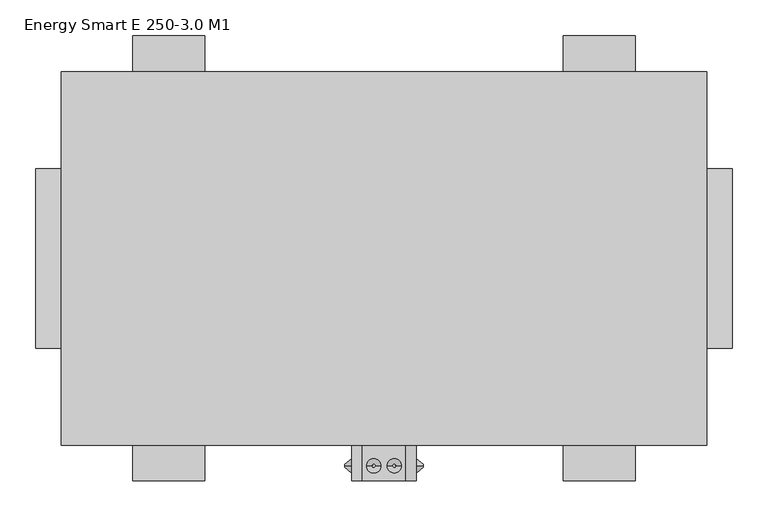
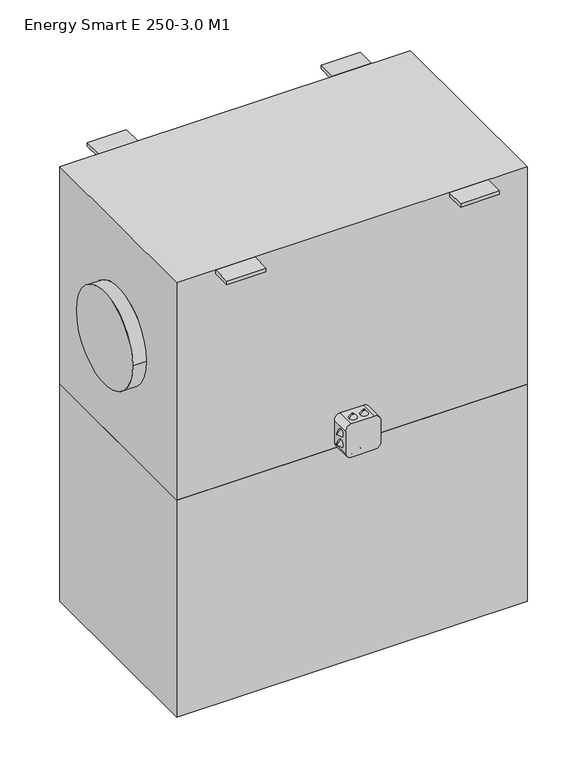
"""IFC4 building model written with IfcOpenShell, lengths in millimetres: proxy geometry, ADSK_КПВУ_ENERGY SMART E_круглая : Energy Smart E 250-3.0 M1."""

from ifc_helpers import new_model, si_unit, point, frame, frame_2d, origin, place, context, project, spatial, polyline, circle_curve, trimmed, segment, composite_curve, outline, extrude, source, transform, mapped, element, save
from ifc_brep_helpers import plane_surface, cylinder_surface, revolved_surface, advanced_brep


def energy_smart_e_250_3_0_m1_23596c4c(model_context):
    return source(origin(), model_context, "Body", "SolidModel", [
        advanced_brep(
        [(211.0, -288.9311792, -266.7092609), (211.0, -288.9311792, -262.7092609), (221.0, -288.9311792, -274.7092609), (221.0, -288.9311792, -254.7092609)],
        [
            (0, 1, circle_curve(frame((211.0, -288.9311792, -264.7092609), z_axis=(-1.0, 0.0, 0.0), x_axis=(0.0, 0.0, -1.0)), 2.0)),
            (1, 0, circle_curve(frame((211.0, -288.9311792, -264.7092609), z_axis=(-1.0, 0.0, 0.0), x_axis=(0.0, 0.0, 1.0)), 2.0)),
            (2, 3, circle_curve(frame((221.0, -288.9311792, -264.7092609), z_axis=(1.0, 0.0, 0.0), x_axis=(0.0, 0.0, 1.0)), 10.0)),
            (3, 2, circle_curve(frame((221.0, -288.9311792, -264.7092609), z_axis=(1.0, 0.0, 0.0), x_axis=(0.0, 0.0, -1.0)), 10.0)),
            (2, 0),
            (1, 3),
        ],
        [
            plane_surface(frame((211.0, -288.9311792, -264.7092609), z_axis=(-1.0, 0.0, 0.0), x_axis=(0.0, -1.0, 0.0))),
            plane_surface(frame((221.0, -288.9311792, -264.7092609), z_axis=(1.0, 0.0, 0.0), x_axis=(0.0, -1.0, 0.0))),
            revolved_surface(polyline([(211.0, -288.9311792, -262.7092609), (221.0, -288.9311792, -254.7092609)]), (208.5, -288.9311792, -264.7092609), (1.0, 0.0, 0.0)),
            revolved_surface(polyline([(211.0, -288.9311792, -266.7092609), (221.0, -288.9311792, -274.7092609)]), (208.5, -288.9311792, -264.7092609), (1.0, 0.0, 0.0)),
        ],
        [
            (0, [[1, 2]]),
            (1, [[3, 4]]),
            (2, [[-3, 5, -2, 6]]),
            (3, [[-4, -6, -1, -5]]),
        ],
    ),
        advanced_brep(
        [(211.0, -288.9311792, -234.0531164), (211.0, -288.9311792, -238.0531164), (221.0, -288.9311792, -226.0531164), (221.0, -288.9311792, -246.0531164)],
        [
            (0, 1, circle_curve(frame((211.0, -288.9311792, -236.0531164), z_axis=(-1.0, 0.0, 0.0), x_axis=(0.0, 0.0, 1.0)), 2.0)),
            (1, 0, circle_curve(frame((211.0, -288.9311792, -236.0531164), z_axis=(-1.0, 0.0, 0.0), x_axis=(0.0, 0.0, -1.0)), 2.0)),
            (2, 3, circle_curve(frame((221.0, -288.9311792, -236.0531164), z_axis=(1.0, 0.0, 0.0), x_axis=(0.0, 0.0, -1.0)), 10.0)),
            (3, 2, circle_curve(frame((221.0, -288.9311792, -236.0531164), z_axis=(1.0, 0.0, 0.0), x_axis=(0.0, 0.0, 1.0)), 10.0)),
            (3, 1),
            (0, 2),
        ],
        [
            plane_surface(frame((211.0, -288.9311792, -236.0531164), z_axis=(-1.0, 0.0, 0.0), x_axis=(0.0, 1.0, 0.0))),
            plane_surface(frame((221.0, -288.9311792, -236.0531164), z_axis=(1.0, 0.0, 0.0), x_axis=(0.0, 1.0, 0.0))),
            revolved_surface(polyline([(211.0, -288.9311792, -234.0531164), (221.0, -288.9311792, -226.0531164)]), (208.5, -288.9311792, -236.0531164), (1.0, 0.0, 0.0)),
            revolved_surface(polyline([(211.0, -288.9311792, -238.0531164), (221.0, -288.9311792, -246.0531164)]), (208.5, -288.9311792, -236.0531164), (1.0, 0.0, 0.0)),
        ],
        [
            (0, [[1, 2]]),
            (1, [[3, 4]]),
            (2, [[-4, 5, -1, 6]]),
            (3, [[-3, -6, -2, -5]]),
        ],
    ),
        advanced_brep(
        [(321.0, -288.9311792, -266.7092609), (321.0, -288.9311792, -262.7092609), (311.0, -288.9311792, -274.7092609), (311.0, -288.9311792, -254.7092609)],
        [
            (0, 1, circle_curve(frame((321.0, -288.9311792, -264.7092609), z_axis=(1.0, 0.0, 0.0), x_axis=(0.0, 0.0, -1.0)), 2.0)),
            (1, 0, circle_curve(frame((321.0, -288.9311792, -264.7092609), z_axis=(1.0, 0.0, 0.0), x_axis=(0.0, 0.0, 1.0)), 2.0)),
            (2, 3, circle_curve(frame((311.0, -288.9311792, -264.7092609), z_axis=(-1.0, 0.0, 0.0), x_axis=(0.0, 0.0, 1.0)), 10.0)),
            (3, 2, circle_curve(frame((311.0, -288.9311792, -264.7092609), z_axis=(-1.0, 0.0, 0.0), x_axis=(0.0, 0.0, -1.0)), 10.0)),
            (3, 1),
            (0, 2),
        ],
        [
            plane_surface(frame((321.0, -288.9311792, -264.7092609), z_axis=(1.0, 0.0, 0.0), x_axis=(0.0, 1.0, 0.0))),
            plane_surface(frame((311.0, -288.9311792, -264.7092609), z_axis=(-1.0, 0.0, 0.0), x_axis=(0.0, 1.0, 0.0))),
            revolved_surface(polyline([(321.0, -288.9311792, -266.7092609), (311.0, -288.9311792, -274.7092609)]), (323.5, -288.9311792, -264.7092609), (-1.0, 0.0, 0.0)),
            revolved_surface(polyline([(321.0, -288.9311792, -262.7092609), (311.0, -288.9311792, -254.7092609)]), (323.5, -288.9311792, -264.7092609), (-1.0, 0.0, 0.0)),
        ],
        [
            (0, [[1, 2]]),
            (1, [[3, 4]]),
            (2, [[-4, 5, -1, 6]]),
            (3, [[-3, -6, -2, -5]]),
        ],
    ),
        advanced_brep(
        [(321.0, -288.9311792, -234.0531164), (321.0, -288.9311792, -238.0531164), (311.0, -288.9311792, -226.0531164), (311.0, -288.9311792, -246.0531164)],
        [
            (0, 1, circle_curve(frame((321.0, -288.9311792, -236.0531164), z_axis=(1.0, 0.0, 0.0), x_axis=(0.0, 0.0, 1.0)), 2.0)),
            (1, 0, circle_curve(frame((321.0, -288.9311792, -236.0531164), z_axis=(1.0, 0.0, 0.0), x_axis=(0.0, 0.0, -1.0)), 2.0)),
            (2, 3, circle_curve(frame((311.0, -288.9311792, -236.0531164), z_axis=(-1.0, 0.0, 0.0), x_axis=(0.0, 0.0, -1.0)), 10.0)),
            (3, 2, circle_curve(frame((311.0, -288.9311792, -236.0531164), z_axis=(-1.0, 0.0, 0.0), x_axis=(0.0, 0.0, 1.0)), 10.0)),
            (2, 0),
            (1, 3),
        ],
        [
            plane_surface(frame((321.0, -288.9311792, -236.0531164), z_axis=(1.0, 0.0, 0.0), x_axis=(0.0, -1.0, 0.0))),
            plane_surface(frame((311.0, -288.9311792, -236.0531164), z_axis=(-1.0, 0.0, 0.0), x_axis=(0.0, -1.0, 0.0))),
            revolved_surface(polyline([(321.0, -288.9311792, -238.0531164), (311.0, -288.9311792, -246.0531164)]), (323.5, -288.9311792, -236.0531164), (-1.0, 0.0, 0.0)),
            revolved_surface(polyline([(321.0, -288.9311792, -234.0531164), (311.0, -288.9311792, -226.0531164)]), (323.5, -288.9311792, -236.0531164), (-1.0, 0.0, 0.0)),
        ],
        [
            (0, [[1, 2]]),
            (1, [[3, 4]]),
            (2, [[-3, 5, -2, 6]]),
            (3, [[-4, -6, -1, -5]]),
        ],
    ),
        advanced_brep(
        [(249.6719278, -288.9311792, -305.0), (253.6719278, -288.9311792, -305.0), (241.6719278, -288.9311792, -295.0), (261.6719278, -288.9311792, -295.0)],
        [
            (0, 1, circle_curve(frame((251.6719278, -288.9311792, -305.0), z_axis=(0.0, 0.0, -1.0), x_axis=(-1.0, 0.0, 0.0)), 2.0)),
            (1, 0, circle_curve(frame((251.6719278, -288.9311792, -305.0), z_axis=(0.0, 0.0, -1.0), x_axis=(1.0, 0.0, 0.0)), 2.0)),
            (2, 3, circle_curve(frame((251.6719278, -288.9311792, -295.0), z_axis=(0.0, 0.0, 1.0), x_axis=(1.0, 0.0, 0.0)), 10.0)),
            (3, 2, circle_curve(frame((251.6719278, -288.9311792, -295.0), z_axis=(0.0, 0.0, 1.0), x_axis=(-1.0, 0.0, 0.0)), 10.0)),
            (3, 1),
            (0, 2),
        ],
        [
            plane_surface(frame((251.6719278, -288.9311792, -305.0), z_axis=(0.0, 0.0, -1.0), x_axis=(0.0, 1.0, 0.0))),
            plane_surface(frame((251.6719278, -288.9311792, -295.0), z_axis=(0.0, 0.0, 1.0), x_axis=(0.0, 1.0, 0.0))),
            revolved_surface(polyline([(249.6719278, -288.9311792, -305.0), (241.6719278, -288.9311792, -295.0)]), (251.6719278, -288.9311792, -307.5), (0.0, 0.0, 1.0)),
            revolved_surface(polyline([(253.6719278, -288.9311792, -305.0), (261.6719278, -288.9311792, -295.0)]), (251.6719278, -288.9311792, -307.5), (0.0, 0.0, 1.0)),
        ],
        [
            (0, [[1, 2]]),
            (1, [[3, 4]]),
            (2, [[-4, 5, -1, 6]]),
            (3, [[-3, -6, -2, -5]]),
        ],
    ),
        advanced_brep(
        [(282.3280722, -288.9311792, -305.0), (278.3280722, -288.9311792, -305.0), (290.3280722, -288.9311792, -295.0), (270.3280722, -288.9311792, -295.0)],
        [
            (0, 1, circle_curve(frame((280.3280722, -288.9311792, -305.0), z_axis=(0.0, 0.0, -1.0), x_axis=(1.0, 0.0, 0.0)), 2.0)),
            (1, 0, circle_curve(frame((280.3280722, -288.9311792, -305.0), z_axis=(0.0, 0.0, -1.0), x_axis=(-1.0, 0.0, 0.0)), 2.0)),
            (2, 3, circle_curve(frame((280.3280722, -288.9311792, -295.0), z_axis=(0.0, 0.0, 1.0), x_axis=(-1.0, 0.0, 0.0)), 10.0)),
            (3, 2, circle_curve(frame((280.3280722, -288.9311792, -295.0), z_axis=(0.0, 0.0, 1.0), x_axis=(1.0, 0.0, 0.0)), 10.0)),
            (2, 0),
            (1, 3),
        ],
        [
            plane_surface(frame((280.3280722, -288.9311792, -305.0), z_axis=(0.0, 0.0, -1.0), x_axis=(0.0, -1.0, 0.0))),
            plane_surface(frame((280.3280722, -288.9311792, -295.0), z_axis=(0.0, 0.0, 1.0), x_axis=(0.0, -1.0, 0.0))),
            revolved_surface(polyline([(278.3280722, -288.9311792, -305.0), (270.3280722, -288.9311792, -295.0)]), (280.3280722, -288.9311792, -307.5), (0.0, 0.0, 1.0)),
            revolved_surface(polyline([(282.3280722, -288.9311792, -305.0), (290.3280722, -288.9311792, -295.0)]), (280.3280722, -288.9311792, -307.5), (0.0, 0.0, 1.0)),
        ],
        [
            (0, [[1, 2]]),
            (1, [[3, 4]]),
            (2, [[-3, 5, -2, 6]]),
            (3, [[-4, -6, -1, -5]]),
        ],
    ),
        advanced_brep(
        [(249.6719278, -288.9311792, -195.0), (253.6719278, -288.9311792, -195.0), (241.6719278, -288.9311792, -205.0), (261.6719278, -288.9311792, -205.0)],
        [
            (0, 1, circle_curve(frame((251.6719278, -288.9311792, -195.0), z_axis=(0.0, 0.0, 1.0), x_axis=(-1.0, 0.0, 0.0)), 2.0)),
            (1, 0, circle_curve(frame((251.6719278, -288.9311792, -195.0), z_axis=(0.0, 0.0, 1.0), x_axis=(1.0, 0.0, 0.0)), 2.0)),
            (2, 3, circle_curve(frame((251.6719278, -288.9311792, -205.0), z_axis=(0.0, 0.0, -1.0), x_axis=(1.0, 0.0, 0.0)), 10.0)),
            (3, 2, circle_curve(frame((251.6719278, -288.9311792, -205.0), z_axis=(0.0, 0.0, -1.0), x_axis=(-1.0, 0.0, 0.0)), 10.0)),
            (2, 0),
            (1, 3),
        ],
        [
            plane_surface(frame((251.6719278, -288.9311792, -195.0), z_axis=(0.0, 0.0, 1.0), x_axis=(0.0, -1.0, 0.0))),
            plane_surface(frame((251.6719278, -288.9311792, -205.0), z_axis=(0.0, 0.0, -1.0), x_axis=(0.0, -1.0, 0.0))),
            revolved_surface(polyline([(253.6719278, -288.9311792, -195.0), (261.6719278, -288.9311792, -205.0)]), (251.6719278, -288.9311792, -192.5), (0.0, 0.0, -1.0)),
            revolved_surface(polyline([(249.6719278, -288.9311792, -195.0), (241.6719278, -288.9311792, -205.0)]), (251.6719278, -288.9311792, -192.5), (0.0, 0.0, -1.0)),
        ],
        [
            (0, [[1, 2]]),
            (1, [[3, 4]]),
            (2, [[-3, 5, -2, 6]]),
            (3, [[-4, -6, -1, -5]]),
        ],
    ),
        advanced_brep(
        [(282.3280722, -288.9311792, -195.0), (278.3280722, -288.9311792, -195.0), (290.3280722, -288.9311792, -205.0), (270.3280722, -288.9311792, -205.0)],
        [
            (0, 1, circle_curve(frame((280.3280722, -288.9311792, -195.0), z_axis=(0.0, 0.0, 1.0), x_axis=(1.0, 0.0, 0.0)), 2.0)),
            (1, 0, circle_curve(frame((280.3280722, -288.9311792, -195.0), z_axis=(0.0, 0.0, 1.0), x_axis=(-1.0, 0.0, 0.0)), 2.0)),
            (2, 3, circle_curve(frame((280.3280722, -288.9311792, -205.0), z_axis=(0.0, 0.0, -1.0), x_axis=(-1.0, 0.0, 0.0)), 10.0)),
            (3, 2, circle_curve(frame((280.3280722, -288.9311792, -205.0), z_axis=(0.0, 0.0, -1.0), x_axis=(1.0, 0.0, 0.0)), 10.0)),
            (3, 1),
            (0, 2),
        ],
        [
            plane_surface(frame((280.3280722, -288.9311792, -195.0), z_axis=(0.0, 0.0, 1.0), x_axis=(0.0, 1.0, 0.0))),
            plane_surface(frame((280.3280722, -288.9311792, -205.0), z_axis=(0.0, 0.0, -1.0), x_axis=(0.0, 1.0, 0.0))),
            revolved_surface(polyline([(282.3280722, -288.9311792, -195.0), (290.3280722, -288.9311792, -205.0)]), (280.3280722, -288.9311792, -192.5), (0.0, 0.0, -1.0)),
            revolved_surface(polyline([(278.3280722, -288.9311792, -195.0), (270.3280722, -288.9311792, -205.0)]), (280.3280722, -288.9311792, -192.5), (0.0, 0.0, -1.0)),
        ],
        [
            (0, [[1, 2]]),
            (1, [[3, 4]]),
            (2, [[-4, 5, -1, 6]]),
            (3, [[-3, -6, -2, -5]]),
        ],
    ),
        extrude(outline(composite_curve([segment(polyline([(-295.0, 236.0), (-295.0, 296.0)]), True, "CONTINUOUS"), segment(trimmed(circle_curve(frame_2d((-280.0, 296.0)), 15.0), [point((-295.0, 296.0))], [point((-280.0, 311.0))], False, "CARTESIAN"), True, "CONTINUOUS"), segment(polyline([(-280.0, 311.0), (-220.0, 311.0)]), True, "CONTINUOUS"), segment(trimmed(circle_curve(frame_2d((-220.0, 296.0)), 15.0), [point((-220.0, 311.0))], [point((-205.0, 296.0))], False, "CARTESIAN"), True, "CONTINUOUS"), segment(polyline([(-205.0, 296.0), (-205.0, 236.0)]), True, "CONTINUOUS"), segment(trimmed(circle_curve(frame_2d((-220.0, 236.0)), 15.0), [point((-205.0, 236.0))], [point((-220.0, 221.0))], False, "CARTESIAN"), True, "CONTINUOUS"), segment(polyline([(-220.0, 221.0), (-280.0, 221.0)]), True, "CONTINUOUS"), segment(trimmed(circle_curve(frame_2d((-280.0, 236.0)), 15.0), [point((-280.0, 221.0))], [point((-295.0, 236.0))], False, "CARTESIAN"), True, "CONTINUOUS")], self_intersect=False)), frame((0.0, -310.0, 0.0), z_axis=(0.0, 1.0, 0.0), x_axis=(0.0, 0.0, 1.0)), (0.0, 0.0, 1.0), 50.0),
        advanced_brep(
        [(716.0, -260.0, 295.0), (716.0, -260.0, -295.0), (716.0, 260.0, -295.0), (716.0, 260.0, 295.0), (716.0, 125.0, 0.0), (716.0, -125.0, 0.0), (-184.0, -260.0, 295.0), (-184.0, 260.0, 295.0), (-184.0, 260.0, -295.0), (-184.0, -260.0, -295.0), (-184.0, 125.0, 0.0), (-184.0, -125.0, 0.0), (-219.0, -125.0, 0.0), (-219.0, 125.0, 0.0), (751.0, -125.0, 0.0), (751.0, 125.0, 0.0)],
        [
            (0, 1),
            (1, 2),
            (2, 3),
            (3, 0),
            (4, 5, circle_curve(frame((716.0, 0.0, 0.0), z_axis=(-1.0, 0.0, 0.0), x_axis=(0.0, 1.0, 0.0)), 125.0)),
            (5, 4, circle_curve(frame((716.0, 0.0, 0.0), z_axis=(-1.0, 0.0, 0.0), x_axis=(0.0, 1.0, 0.0)), 125.0)),
            (6, 7),
            (7, 8),
            (8, 9),
            (9, 6),
            (10, 11, circle_curve(frame((-184.0, 0.0, 0.0), z_axis=(1.0, 0.0, 0.0), x_axis=(0.0, 1.0, 0.0)), 125.0)),
            (11, 10, circle_curve(frame((-184.0, 0.0, 0.0), z_axis=(1.0, 0.0, 0.0), x_axis=(0.0, 1.0, 0.0)), 125.0)),
            (12, 13, circle_curve(frame((-219.0, 0.0, 0.0), z_axis=(-1.0, 0.0, 0.0), x_axis=(0.0, 1.0, 0.0)), 125.0)),
            (13, 12, circle_curve(frame((-219.0, 0.0, 0.0), z_axis=(-1.0, 0.0, 0.0), x_axis=(0.0, 1.0, 0.0)), 125.0)),
            (0, 6),
            (9, 1),
            (8, 2),
            (7, 3),
            (12, 11),
            (10, 13),
            (14, 15, circle_curve(frame((751.0, 0.0, 0.0), z_axis=(1.0, 0.0, 0.0), x_axis=(0.0, 1.0, 0.0)), 125.0)),
            (15, 14, circle_curve(frame((751.0, 0.0, 0.0), z_axis=(1.0, 0.0, 0.0), x_axis=(0.0, 1.0, 0.0)), 125.0)),
            (14, 5),
            (4, 15),
        ],
        [
            plane_surface(frame((716.0, -260.0, 295.0), z_axis=(1.0, 0.0, 0.0), x_axis=(0.0, 0.0, -1.0))),
            plane_surface(frame((-184.0, -260.0, 295.0), z_axis=(-1.0, 0.0, 0.0), x_axis=(0.0, 0.0, 1.0))),
            plane_surface(frame((-219.0, 125.0, 0.0), z_axis=(-1.0, 0.0, 0.0), x_axis=(0.0, 0.0, -1.0))),
            plane_surface(frame((716.0, -260.0, 295.0), z_axis=(0.0, -1.0, 0.0), x_axis=(-1.0, 0.0, 0.0))),
            plane_surface(frame((716.0, -260.0, -295.0), z_axis=(0.0, 0.0, -1.0), x_axis=(-1.0, 0.0, 0.0))),
            plane_surface(frame((716.0, 260.0, -295.0), z_axis=(0.0, 1.0, 0.0), x_axis=(-1.0, 0.0, 0.0))),
            plane_surface(frame((716.0, 260.0, 295.0), z_axis=(0.0, 0.0, 1.0), x_axis=(-1.0, 0.0, 0.0))),
            cylinder_surface(frame((-219.0, 0.0, 0.0), z_axis=(1.0, 0.0, 0.0), x_axis=(0.0, 1.0, 0.0)), 125.0),
            plane_surface(frame((751.0, 125.0, 0.0), z_axis=(1.0, 0.0, 0.0), x_axis=(0.0, 0.0, 1.0))),
            cylinder_surface(frame((716.0, 0.0, 0.0), z_axis=(1.0, 0.0, 0.0), x_axis=(0.0, 1.0, 0.0)), 125.0),
        ],
        [
            (0, [[1, 2, 3, 4], [5, 6]]),
            (1, [[7, 8, 9, 10], [11, 12]]),
            (2, [[13, 14]]),
            (3, [[-1, 15, -10, 16]]),
            (4, [[-2, -16, -9, 17]]),
            (5, [[-3, -17, -8, 18]]),
            (6, [[-4, -18, -7, -15]]),
            (7, [[-13, 19, -11, 20]]),
            (7, [[-14, -20, -12, -19]]),
            (8, [[21, 22]]),
            (9, [[-21, 23, -5, 24]]),
            (9, [[-22, -24, -6, -23]]),
        ],
    ),
        extrude(outline(polyline([(16.0, 310.0), (16.0, 260.0), (-84.0, 260.0), (-84.0, 310.0), (16.0, 310.0)])), frame((0.0, 0.0, 285.0), z_axis=(0.0, 0.0, 1.0), x_axis=(1.0, 0.0, 0.0)), (0.0, 0.0, 1.0), 10.0),
        extrude(outline(polyline([(516.0, 310.0), (616.0, 310.0), (616.0, 260.0), (516.0, 260.0), (516.0, 310.0)])), frame((0.0, 0.0, 285.0), z_axis=(0.0, 0.0, 1.0), x_axis=(1.0, 0.0, 0.0)), (0.0, 0.0, 1.0), 10.0),
        extrude(outline(polyline([(16.0, -310.0), (-84.0, -310.0), (-84.0, -260.0), (16.0, -260.0), (16.0, -310.0)])), frame((0.0, 0.0, 285.0), z_axis=(0.0, 0.0, 1.0), x_axis=(1.0, 0.0, 0.0)), (0.0, 0.0, 1.0), 10.0),
        extrude(outline(polyline([(516.0, -310.0), (516.0, -260.0), (616.0, -260.0), (616.0, -310.0), (516.0, -310.0)])), frame((0.0, 0.0, 285.0), z_axis=(0.0, 0.0, 1.0), x_axis=(1.0, 0.0, 0.0)), (0.0, 0.0, 1.0), 10.0),
        extrude(outline(polyline([(716.0, 260.0), (716.0, -260.0), (-184.0, -260.0), (-184.0, 260.0), (716.0, 260.0)])), frame((0.0, 0.0, -885.0), z_axis=(0.0, 0.0, 1.0), x_axis=(1.0, 0.0, 0.0)), (0.0, 0.0, 1.0), 590.0),
    ])


if __name__ == "__main__":
    model = new_model("IFC4")
    model_context = context("Model", 3, world=origin())
    ifc_project = project(units=[si_unit("LENGTHUNIT", "METRE", prefix="MILLI")], contexts=[model_context])
    site = spatial("IfcSite", under=ifc_project)
    building = spatial("IfcBuilding", under=site)
    placement = place(None, origin())
    energy_smart_e_250_3_0_m1_shape = energy_smart_e_250_3_0_m1_23596c4c(model_context)
    element("IfcBuildingElementProxy", 1, Name="ADSK_КПВУ_ENERGY SMART E_круглая : Energy Smart E 250-3.0 M1", ObjectType="ADSK_КПВУ_ENERGY SMART E_круглая : Energy Smart E 250-3.0 M1", at=placement, inside=building, context=model_context, shape_type="MappedRepresentation", body=[
        mapped(energy_smart_e_250_3_0_m1_shape, transform((0.0, 0.0, 0.0), x_axis=(1.0, 0.0, 0.0), y_axis=(0.0, 1.0, 0.0), z_axis=(0.0, 0.0, 1.0))),
    ])
    save(model, "model.ifc")
